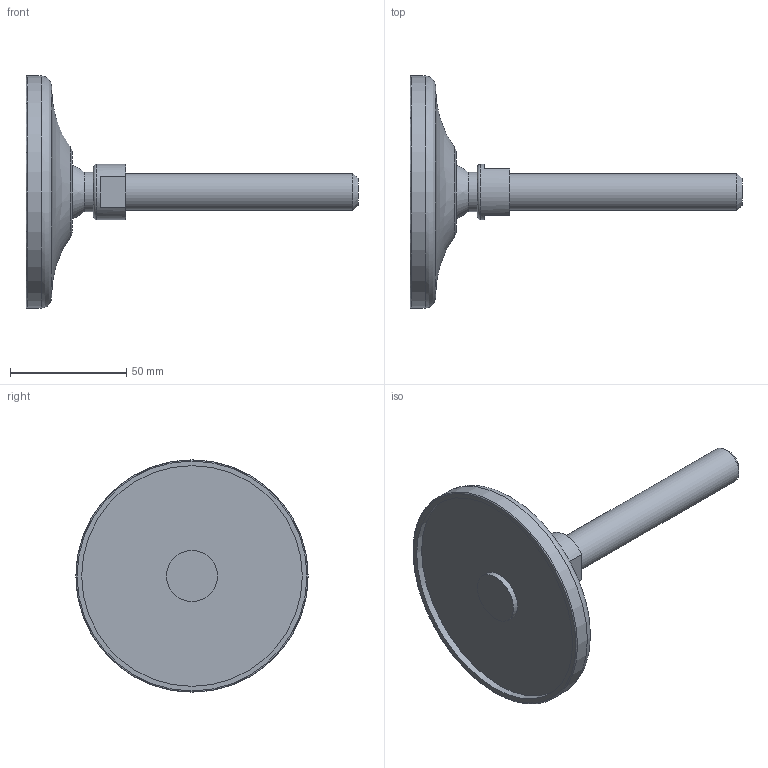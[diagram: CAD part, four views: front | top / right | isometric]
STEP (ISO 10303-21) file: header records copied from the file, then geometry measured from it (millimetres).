
FILE_DESCRIPTION(('STEP AP203'),'2;1');
FILE_NAME('10766.stp','2015-09-18T15:37:05',(''),(''),'2008.1.107','THINKDESIGN','');
FILE_SCHEMA(('CONFIG_CONTROL_DESIGN'));
Length unit declared in the file: millimetre
Bounding box: 143 x 100 x 100 mm (x, y, z)
Volume: 114278.9 mm3; surface area: 28337.3 mm2
Topology: 4 solids, 4 shells, 27 faces, 62 edges, 45 vertices
Faces by surface type: plane 14, bspline 7, cylinder 6
Full cylindrical faces by diameter (mm): 16 x1, 17 x1, 22 x1, 24 x1, 95 x1, 100 x1
Entity records: 1395 total; most frequent: CARTESIAN_POINT 657, DIRECTION 149, ORIENTED_EDGE 124, AXIS2_PLACEMENT_3D 67, EDGE_CURVE 62, CIRCLE 47, VERTEX_POINT 45, EDGE_LOOP 29
